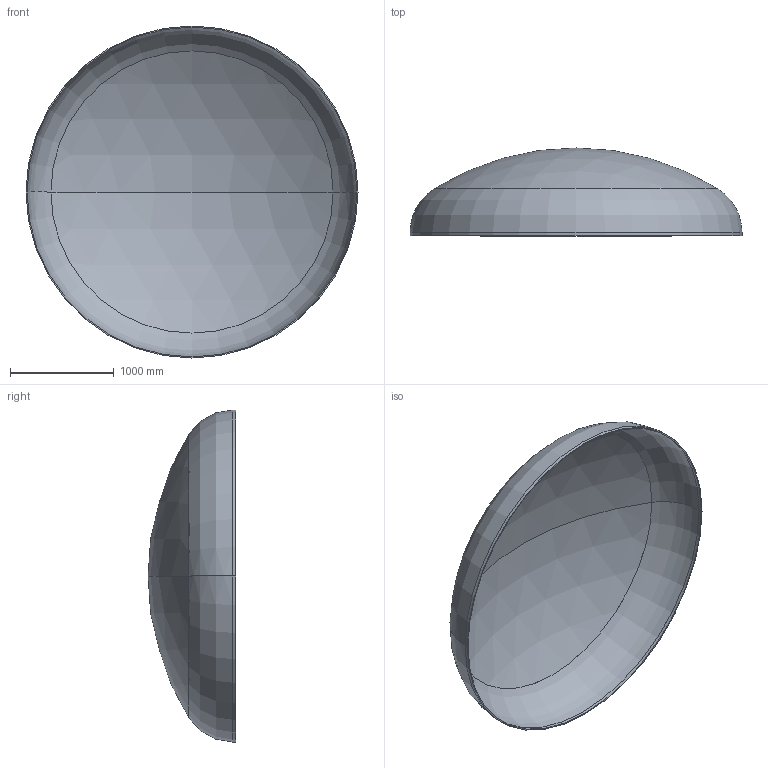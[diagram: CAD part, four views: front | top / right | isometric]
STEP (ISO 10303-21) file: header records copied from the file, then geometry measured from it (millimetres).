
FILE_DESCRIPTION (( 'STEP AP203' ), '1' );
FILE_NAME ('DIN 28013 Korbbogenform_-_Boden DIN 28013 - 3200 x 30 - I - s=10.step', '2016-07-01T18:17:55', ( '' ), ( '' ), 'SwSTEP 2.0', 'SolidWorks 2013', '' );
FILE_SCHEMA (( 'CONFIG_CONTROL_DESIGN' ));
Length unit declared in the file: millimetre
Products named in the file (1): DIN 28013 Korbbogenform_-_Boden DIN 28013 - 3200 x 30 - I - s=10
Bounding box: 3200 x 846.46 x 3200 mm (x, y, z)
Volume: 113819445 mm3; surface area: 22864305.9 mm2
Topology: 1 solids, 1 shells, 13 faces, 24 edges, 14 vertices
Faces by surface type: torus 4, cylinder 4, sphere 4, plane 1
Entity records: 407 total; most frequent: DIRECTION 72, CARTESIAN_POINT 52, ORIENTED_EDGE 48, AXIS2_PLACEMENT_3D 34, EDGE_CURVE 24, CIRCLE 20, VERTEX_POINT 14, EDGE_LOOP 14
